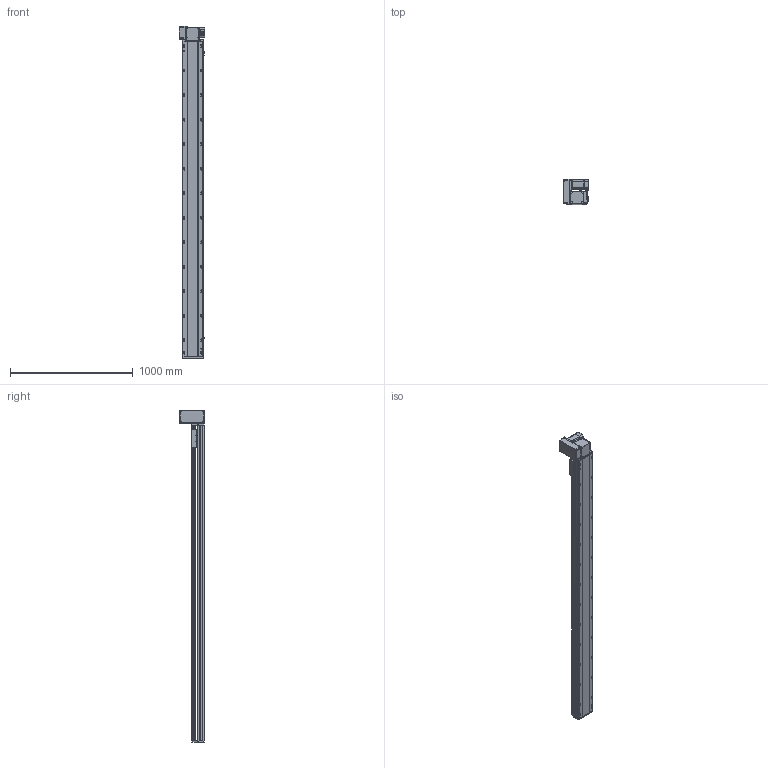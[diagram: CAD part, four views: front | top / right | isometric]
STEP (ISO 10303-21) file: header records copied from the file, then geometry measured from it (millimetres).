
FILE_DESCRIPTION (( 'STEP AP214' ), '1' );
FILE_NAME ('RTB17S-XX-2300-LW-M75-C4.STEP', '2025-12-12T01:12:24', ( '' ), ( '' ), 'SwSTEP 2.0', 'SolidWorks 2018', '' );
FILE_SCHEMA (( 'AUTOMOTIVE_DESIGN' ));
Length unit declared in the file: millimetre
Products named in the file (15): RTB17S-L-004-賑釱^RTB17S-賑釱_RTB17S-XX-XX-LW-M75-C4; 750W萇儂^RTB17S-XX-XX-LW-M75-C4; RTB17S-L-001-耜醱啣^RTB17S-XX-XX-LW-M75-C4; RTB22S-GY-005P^RTB17S-LW-々湍釱蚾饜-750W_RTB17S-XX-XX-LW-M75-C4; RTB22S-GY-008-M75--萇儂啣^RTB17S-LW-々湍釱蚾饜-750W_RTB17S-XX-XX-LW-M75-C4; RTB22S-GY-018P^RTB17S-LW-々湍釱蚾饜-750W_RTB17S-XX-XX-LW-M75-C4; RTH13-BL-012覜茼え俋离^RTB17S-賑釱_RTB17S-XX-XX-LW-M75-C4; RTB17S-LW-々湍釱蚾饜-750W^RTB17S-XX-XX-LW-M75-C4; RTB22S-GY-017P^RTB17S-LW-々湍釱蚾饜-750W_RTB17S-XX-XX-LW-M75-C4; EE672^RTB17S-XX-XX-LW-M75-C4; RTB17S-XX-2300-LW-M75-C4; RTB17S-L-007奻裔^RTB17S-XX-XX-LW-M75-C4; RTB17S-L-014-T20-P75--々湍釱^RTB17S-LW-々湍釱蚾饜-750W_RTB17S-XX-XX-LW-M75-C4; RTB17S-賑釱^RTB17S-XX-XX-LW-M75-C4; RTB17-R-011菁釱^RTB17S-XX-XX-LW-M75-C4
Assembly tree (17 placements, depth 3):
  RTB17S-XX-2300-LW-M75-C4
    RTB17-R-011菁釱^RTB17S-XX-XX-LW-M75-C4
    EE672^RTB17S-XX-XX-LW-M75-C4  x3
    RTB17S-L-001-耜醱啣^RTB17S-XX-XX-LW-M75-C4
    RTB17S-賑釱^RTB17S-XX-XX-LW-M75-C4
      RTB17S-L-004-賑釱^RTB17S-賑釱_RTB17S-XX-XX-LW-M75-C4
      RTH13-BL-012覜茼え俋离^RTB17S-賑釱_RTB17S-XX-XX-LW-M75-C4
    RTB17S-L-007奻裔^RTB17S-XX-XX-LW-M75-C4
    750W萇儂^RTB17S-XX-XX-LW-M75-C4
    RTB17S-LW-々湍釱蚾饜-750W^RTB17S-XX-XX-LW-M75-C4
      RTB17S-L-014-T20-P75--々湍釱^RTB17S-LW-々湍釱蚾饜-750W_RTB17S-XX-XX-LW-M75-C4
      RTB22S-GY-005P^RTB17S-LW-々湍釱蚾饜-750W_RTB17S-XX-XX-LW-M75-C4
      RTB22S-GY-017P^RTB17S-LW-々湍釱蚾饜-750W_RTB17S-XX-XX-LW-M75-C4  x2
      RTB22S-GY-008-M75--萇儂啣^RTB17S-LW-々湍釱蚾饜-750W_RTB17S-XX-XX-LW-M75-C4
      RTB22S-GY-018P^RTB17S-LW-々湍釱蚾饜-750W_RTB17S-XX-XX-LW-M75-C4
Bounding box: 210.4 x 201.5 x 2707.5 mm (x, y, z)
Volume: 20325024.5 mm3; surface area: 3668646.4 mm2
Topology: 17 solids, 17 shells, 2201 faces, 6160 edges, 3986 vertices
Faces by surface type: plane 984, cylinder 801, bspline 294, cone 110, sphere 8, torus 4
Entity records: 63478 total; most frequent: CARTESIAN_POINT 18824, ORIENTED_EDGE 9164, DIRECTION 8492, EDGE_CURVE 4582, AXIS2_PLACEMENT_3D 3006, VERTEX_POINT 2990, VECTOR 2480, LINE 2480
